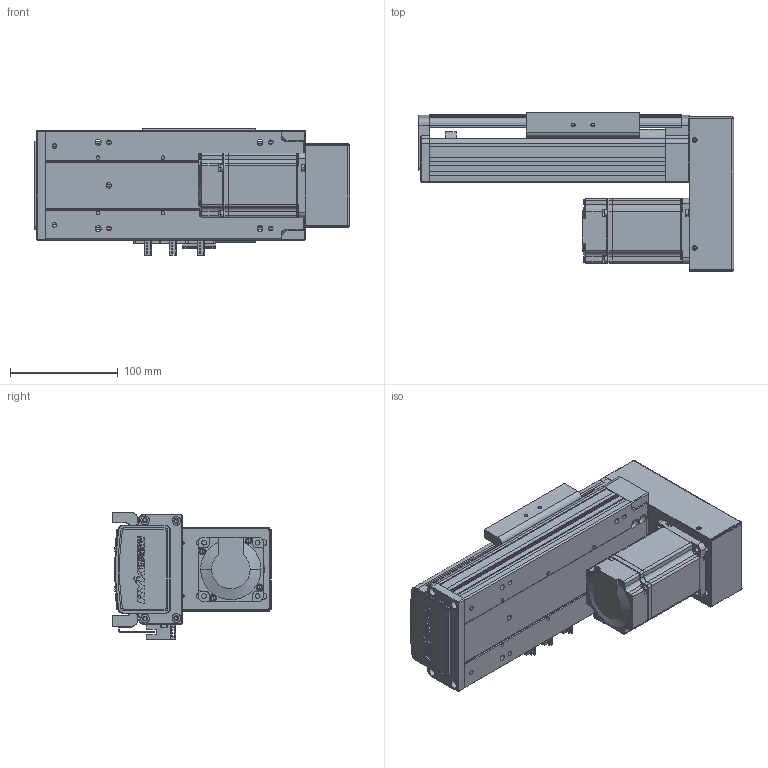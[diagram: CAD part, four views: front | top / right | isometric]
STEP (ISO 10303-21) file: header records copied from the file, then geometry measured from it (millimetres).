
FILE_DESCRIPTION (( 'STEP AP203' ), '1' );
FILE_NAME ('RY100S-L1605-50-BK-M40.STEP', '2024-03-25T01:27:34', ( '' ), ( '' ), 'SwSTEP 2.0', 'SolidWorks 2016', '' );
FILE_SCHEMA (( 'CONFIG_CONTROL_DESIGN' ));
Length unit declared in the file: millimetre
Products named in the file (14): 滅袉蝶18-24; RY100綴裔啣; RY100俋离覜茼え; 滅袉蝶18-10; 覜茼ん672; 侂狟200W萇儂; RY100S狟殏萇儂欶(15邧寢); RY100S-L1605-50-BK-M40; RY100S转折电机端支撑座(15双轨); RY100S下折电机安装板（15双轨）; RY100S-350-LK型材底座(低组15双轨)_100; RY100S-300-LK转折型材上盖(15双轨)_100; 1; 100S铝滑块（15双轨单滑块）低组装
Assembly tree (15 placements, depth 3):
  RY100S-L1605-50-BK-M40
    RY100S-350-LK型材底座(低组15双轨)_100
    RY100S-300-LK转折型材上盖(15双轨)_100
    覜茼ん672  x3
    滅袉蝶18-10
    RY100俋离覜茼え
    RY100S转折电机端支撑座(15双轨)
    滅袉蝶18-24
    RY100綴裔啣
    RY100S狟殏萇儂欶(15邧寢)
    侂狟200W萇儂
      1
    RY100S下折电机安装板（15双轨）
    100S铝滑块（15双轨单滑块）低组装
Bounding box: 292 x 147 x 117.2 mm (x, y, z)
Volume: 1120171.1 mm3; surface area: 376990 mm2
Topology: 14 solids, 14 shells, 2022 faces, 5498 edges, 3546 vertices
Faces by surface type: plane 1151, cylinder 646, cone 137, bspline 88
Entity records: 64124 total; most frequent: CARTESIAN_POINT 16141, ORIENTED_EDGE 9840, DIRECTION 9357, EDGE_CURVE 4920, LINE 3295, VECTOR 3295, VERTEX_POINT 3226, AXIS2_PLACEMENT_3D 3031
